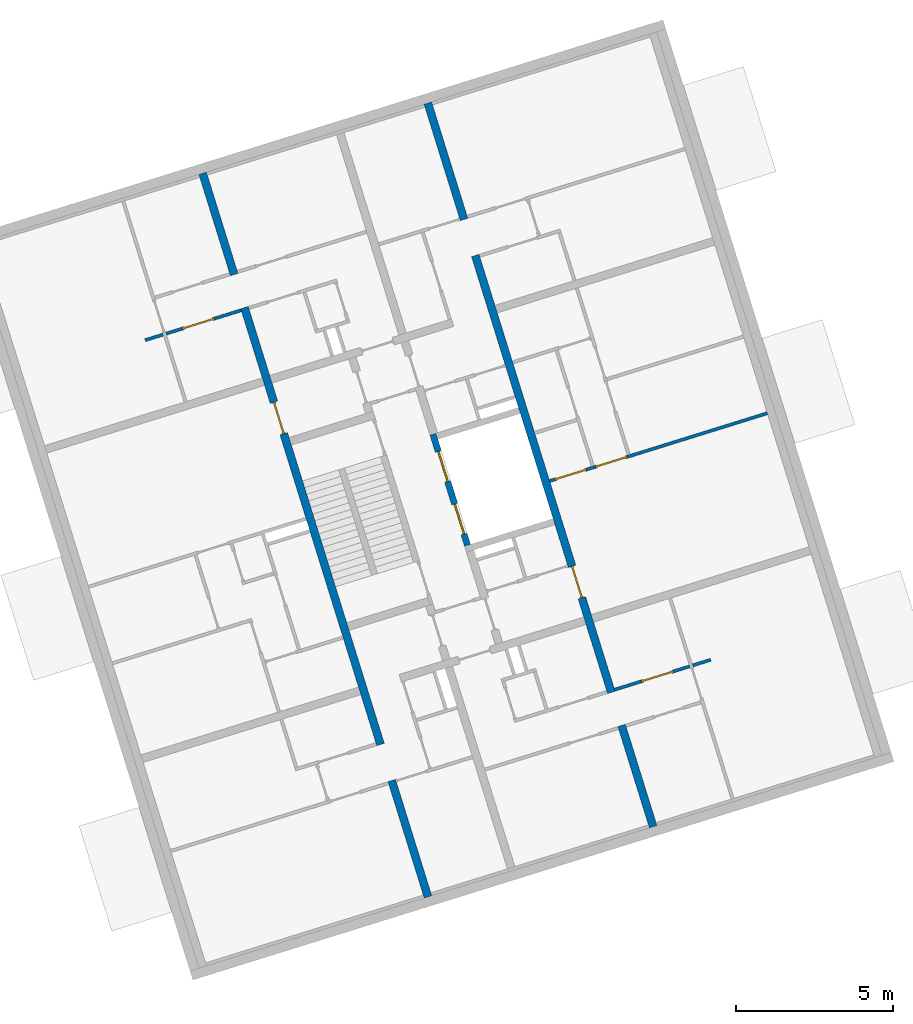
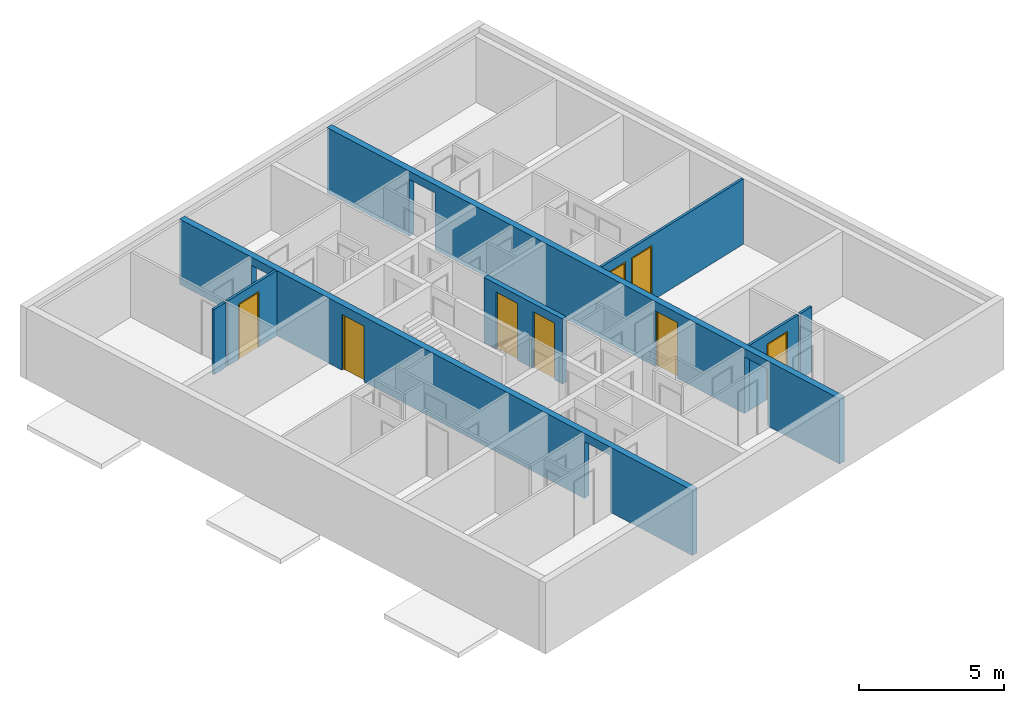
# One storey, part 8 of 9: 8 doors, 6 walls, 14 openings.
"""IFC4 building model written with IfcOpenShell, lengths in metres."""

import ifcopenshell
import ifcopenshell.guid

model = None  # the IFC model being written
_history = None  # IfcOwnerHistory: only IFC2X3 demands one
_inside = {}  # id of a spatial element -> (the spatial element, [elements in it])
_under = {}  # id of a project, library or spatial element -> (it, [spatial elements below it])
_declared = {}  # id of a project -> (the project, [libraries it declares])
_typed = {}  # id of a type object -> (the type object, [elements of that type])
_made_of = {}  # id of a material, layer set ... -> (it, [elements and type objects made of it])


def new_model(schema):
    """Start an empty IFC model of exactly this schema.

    Asked for "IFC4X3", IfcOpenShell would pick the latest addendum, in which some entities
    have other attributes; the version numbers below select the first issue.
    IFC2X3 requires an IfcOwnerHistory on every rooted entity: one is made here for all.
    """
    global model, _history
    if schema == "IFC4X3":
        model = ifcopenshell.file(schema_version=(4, 3, 0, 0))
    else:
        model = ifcopenshell.file(schema=schema)
    _inside.clear()
    _under.clear()
    _declared.clear()
    _typed.clear()
    _made_of.clear()
    _history = None
    if model.schema == "IFC2X3":
        org = make("IfcOrganization", Name="unknown")
        user = make(
            "IfcPersonAndOrganization",
            ThePerson=make("IfcPerson", FamilyName="unknown"),
            TheOrganization=org,
        )
        app = make(
            "IfcApplication",
            ApplicationDeveloper=org,
            Version="unknown",
            ApplicationFullName="unknown",
            ApplicationIdentifier="unknown",
        )
        _history = make(
            "IfcOwnerHistory",
            OwningUser=user,
            OwningApplication=app,
            ChangeAction="ADDED",
            CreationDate=0,
        )
    return model


def make(cls, **values):
    """One entity of the class cls with the attributes given. An attribute that is None is left unset."""
    return model.create_entity(
        cls, **{name: value for name, value in values.items() if value is not None}
    )


def entity(cls, *values):
    """Any entity or typed value of the class cls, its attributes in the order of the schema. None: left unset."""
    e = model.create_entity(cls)
    for i, value in enumerate(values):
        if value is not None:
            e[i] = value
    return e


def rooted(cls, **values):
    """An entity with a GlobalId (a new one), such as an element, a storey or a relation."""
    return make(cls, GlobalId=ifcopenshell.guid.new(), OwnerHistory=_history, **values)


def si_unit(unit_type, name, prefix=None):
    """IfcSIUnit, for example si_unit("LENGTHUNIT", "METRE", prefix="MILLI")."""
    return make("IfcSIUnit", UnitType=unit_type, Prefix=prefix, Name=name)


def converted_unit(unit_type, name, factor, base, dimensions=None, offset=None):
    """IfcConversionBasedUnit, such as the inch: factor (a typed value) times the base unit."""
    return make(
        "IfcConversionBasedUnit"
        if offset is None
        else "IfcConversionBasedUnitWithOffset",
        ConversionOffset=offset,
        Dimensions=None
        if dimensions is None
        else entity("IfcDimensionalExponents", *dimensions),
        UnitType=unit_type,
        Name=name,
        ConversionFactor=make(
            "IfcMeasureWithUnit", ValueComponent=factor, UnitComponent=base
        ),
    )


def assignment(units):
    """IfcUnitAssignment: the units of a project."""
    return None if units is None else make("IfcUnitAssignment", Units=units)


def point(xyz):
    """IfcCartesianPoint."""
    return None if xyz is None else make("IfcCartesianPoint", Coordinates=xyz)


def direction(xyz):
    """IfcDirection."""
    return None if xyz is None else make("IfcDirection", DirectionRatios=xyz)


def frame(location, z_axis=None, x_axis=None):
    """IfcAxis2Placement3D, a coordinate frame: its origin and axes. An axis left out is left unset."""
    return make(
        "IfcAxis2Placement3D",
        Location=point(location),
        Axis=direction(z_axis),
        RefDirection=direction(x_axis),
    )


def origin():
    """The frame at (0, 0, 0) with its axes left unset."""
    return frame((0.0, 0.0, 0.0))


def place(relative_to, where):
    """IfcLocalPlacement: puts the frame where relative to a parent placement (None: the world)."""
    return make(
        "IfcLocalPlacement", PlacementRelTo=relative_to, RelativePlacement=where
    )


def context(
    kind, dimensions, precision=None, world=None, true_north=None, identifier=None
):
    """IfcGeometricRepresentationContext, for example the 3D "Model" context."""
    return make(
        "IfcGeometricRepresentationContext",
        ContextIdentifier=identifier,
        ContextType=kind,
        CoordinateSpaceDimension=dimensions,
        Precision=precision,
        WorldCoordinateSystem=world,
        TrueNorth=true_north,
    )


def subcontext(parent, identifier, kind, view, scale=None):
    """IfcGeometricRepresentationSubContext, for example "Body" below "Model"."""
    return make(
        "IfcGeometricRepresentationSubContext",
        ContextIdentifier=identifier,
        ContextType=kind,
        ParentContext=parent,
        TargetScale=scale,
        TargetView=view,
    )


def project(units=None, contexts=None):
    """IfcProject with its units and contexts."""
    return rooted(
        "IfcProject",
        Name="project",
        RepresentationContexts=contexts,
        UnitsInContext=assignment(units),
    )


def spatial(cls, under=None, at=None, **own):
    """A site, building, storey or space (cls), placed at a placement, below another one or the project."""
    s = rooted(cls, ObjectPlacement=at, **own)
    if under is not None:
        _under.setdefault(under.id(), (under, []))[1].append(s)
    return s


def point_list(points):
    """IfcCartesianPointList2D or 3D."""
    cls = (
        "IfcCartesianPointList2D" if len(points[0]) == 2 else "IfcCartesianPointList3D"
    )
    return make(cls, CoordList=points)


def indexed_curve(points, segments=None, self_intersect=None):
    """IfcIndexedPolyCurve: lines and arcs through numbered points (the first is 1)."""
    return make(
        "IfcIndexedPolyCurve",
        Points=point_list(points),
        Segments=segments,
        SelfIntersect=self_intersect,
    )


def outline(outer, holes=None, kind="AREA"):
    """IfcArbitraryClosedProfileDef: a profile drawn as a closed curve; with holes, ...WithVoids."""
    if holes is None:
        return make("IfcArbitraryClosedProfileDef", ProfileType=kind, OuterCurve=outer)
    return make(
        "IfcArbitraryProfileDefWithVoids",
        ProfileType=kind,
        OuterCurve=outer,
        InnerCurves=holes,
    )


def extrude(swept, where, along, depth):
    """IfcExtrudedAreaSolid: the profile swept, set in the frame where, extruded along a direction by depth."""
    return make(
        "IfcExtrudedAreaSolid",
        SweptArea=swept,
        Position=where,
        ExtrudedDirection=direction(along),
        Depth=depth,
    )


def polygons(points, faces, closed=None, point_numbers=None):
    """IfcPolygonalFaceSet: a face is its outer loop, then its inner loops; points numbered from 1."""
    made = []
    for loops in faces:
        if len(loops) == 1:
            made.append(make("IfcIndexedPolygonalFace", CoordIndex=loops[0]))
        else:
            made.append(
                make(
                    "IfcIndexedPolygonalFaceWithVoids",
                    CoordIndex=loops[0],
                    InnerCoordIndices=loops[1:],
                )
            )
    return make(
        "IfcPolygonalFaceSet",
        Coordinates=point_list(points),
        Closed=closed,
        Faces=made,
        PnIndex=point_numbers,
    )


def shape(context_of_items, identifier, shape_type, items):
    """IfcShapeRepresentation: the items that make up one representation, for example the "Body"."""
    return make(
        "IfcShapeRepresentation",
        ContextOfItems=context_of_items,
        RepresentationIdentifier=identifier,
        RepresentationType=shape_type,
        Items=items,
    )


def source(mapping_origin, context_of_items, identifier, shape_type, items):
    """IfcRepresentationMap: a shape defined once, which mapped items show again and again."""
    return make(
        "IfcRepresentationMap",
        MappingOrigin=mapping_origin,
        MappedRepresentation=shape(context_of_items, identifier, shape_type, items),
    )


def transform(
    local_origin,
    x_axis=None,
    y_axis=None,
    z_axis=None,
    scale=None,
    scale2=None,
    scale3=None,
    uniform=True,
):
    """IfcCartesianTransformationOperator3D, or its non-uniform kind. x_axis, y_axis, z_axis: its Axis1, 2, 3."""
    if uniform:
        return make(
            "IfcCartesianTransformationOperator3D",
            Axis1=direction(x_axis),
            Axis2=direction(y_axis),
            LocalOrigin=point(local_origin),
            Scale=scale,
            Axis3=direction(z_axis),
        )
    return make(
        "IfcCartesianTransformationOperator3DnonUniform",
        Axis1=direction(x_axis),
        Axis2=direction(y_axis),
        LocalOrigin=point(local_origin),
        Scale=scale,
        Axis3=direction(z_axis),
        Scale2=scale2,
        Scale3=scale3,
    )


def mapped(mapping_source, mapping_target):
    """IfcMappedItem: shows the shape of a source again, moved by a transform."""
    return make(
        "IfcMappedItem", MappingSource=mapping_source, MappingTarget=mapping_target
    )


def material(Name=None, Category=None):
    """IfcMaterial."""
    return make("IfcMaterial", Name=Name, Category=Category)


def constituent(of_material, Name=None, Category=None, fraction=None):
    """IfcMaterialConstituent: one of the materials an element consists of."""
    return make(
        "IfcMaterialConstituent",
        Name=Name,
        Material=of_material,
        Fraction=fraction,
        Category=Category,
    )


def constituent_set(constituents=None, Name=None):
    """IfcMaterialConstituentSet."""
    return make(
        "IfcMaterialConstituentSet", Name=Name, MaterialConstituents=constituents
    )


def made_of(thing, what):
    """Note that an element or type object is made of a material, layer set ...; save() writes the relation."""
    if what is not None:
        _made_of.setdefault(what.id(), (what, []))[1].append(thing)
    return thing


def type_object(cls, material=None, **own):
    """A type object (cls), such as IfcWallType, which elements share."""
    return made_of(rooted(cls, **own), material)


def type_shapes(of_type, sources):
    """Give a type object the sources (RepresentationMaps) that its elements show as mapped items."""
    of_type.RepresentationMaps = sources


def element(
    cls,
    number,
    at=None,
    inside=None,
    cuts=None,
    type_object=None,
    material=None,
    context=None,
    identifier="Body",
    shape_type=None,
    held_by="IfcProductDefinitionShape",
    body=None,
    shapes=None,
    **own,
):
    """One element of the class cls, such as IfcWall. Its Tag is "e" and its number.

    at: its placement. inside: the storey or other place that contains it. cuts: it is an
    opening in that element (IfcRelVoidsElement). A single representation is given by context,
    identifier, shape_type and body (its items); several are given by shapes. held_by: the class
    of the entity that holds the representations. save() writes the other relations.
    """
    e = rooted(cls, Tag="e%d" % number, ObjectPlacement=at, **own)
    if body is not None:
        shapes = [shape(context, identifier, shape_type, body)]
    if shapes is not None:
        e.Representation = make(held_by, Representations=shapes)
    if inside is not None:
        _inside.setdefault(inside.id(), (inside, []))[1].append(e)
    if cuts is not None:
        rooted(
            "IfcRelVoidsElement", RelatingBuildingElement=cuts, RelatedOpeningElement=e
        )
    if type_object is not None:
        _typed.setdefault(type_object.id(), (type_object, []))[1].append(e)
    return made_of(e, material)


def fill(opening, filler):
    """IfcRelFillsElement: the door or window that sits in an opening."""
    return rooted(
        "IfcRelFillsElement",
        RelatingOpeningElement=opening,
        RelatedBuildingElement=filler,
    )


def aggregate(whole, parts):
    """IfcRelAggregates: a whole, such as a stair, and the parts it consists of."""
    return rooted("IfcRelAggregates", RelatingObject=whole, RelatedObjects=parts)


def save(model, path):
    """Write the relations noted so far, then the file.

    IfcRelAggregates (storeys below a building ...), IfcRelContainedInSpatialStructure (elements
    in a storey), IfcRelDefinesByType, IfcRelAssociatesMaterial and IfcRelDeclares: one each for
    every whole, place, type object, material and project.
    """
    for whole, parts in _under.values():
        aggregate(whole, parts)
    for where, things in _inside.values():
        rooted(
            "IfcRelContainedInSpatialStructure",
            RelatedElements=things,
            RelatingStructure=where,
        )
    for kind, things in _typed.values():
        rooted("IfcRelDefinesByType", RelatedObjects=things, RelatingType=kind)
    for what, things in _made_of.values():
        rooted("IfcRelAssociatesMaterial", RelatedObjects=things, RelatingMaterial=what)
    for by, libraries in _declared.values():
        rooted("IfcRelDeclares", RelatingContext=by, RelatedDefinitions=libraries)
    model.write(path)


model = new_model("IFC4")

# Units and contexts
model_context = context("Model", 3, precision=1e-05, world=origin(), true_north=direction((6.12323399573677e-17, 1.0)))
body_context = subcontext(model_context, "Body", "Model", "MODEL_VIEW")
ifc_project = project(units=[si_unit("LENGTHUNIT", "METRE"), si_unit("AREAUNIT", "SQUARE_METRE"), converted_unit("PLANEANGLEUNIT", "DEGREE", entity("IfcPlaneAngleMeasure", 0.0174532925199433), si_unit("PLANEANGLEUNIT", "RADIAN"), dimensions=[0, 0, 0, 0, 0, 0, 0]), si_unit("VOLUMEUNIT", "CUBIC_METRE")], contexts=[model_context])

# Site, building, storey
site_placement = place(None, frame((13.1347999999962, 11.9886000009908, 0.0), z_axis=(0.0, 0.0, 1.0), x_axis=(0.954770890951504, 0.297342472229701, 0.0)))
site = spatial("IfcSite", under=ifc_project, at=site_placement, Name="Schiehaven", CompositionType="ELEMENT")
building_placement = place(site_placement, origin())
building = spatial("IfcBuilding", under=site, at=building_placement, Name="VORM huis", CompositionType="ELEMENT")
storey_placement = place(building_placement, frame((0.0, 0.0, 21.9)))
storey = spatial("IfcBuildingStorey", under=building, at=storey_placement, Name="07 zevende verdieping", CompositionType="ELEMENT", Elevation=21.9)

# Wall, openings, door
ifc_material_1 = material(Name="beton_gewapend_ihw", Category="Miscellaneous")
wall_type_1 = type_object("IfcWallType", Name="Basic Wall:28_WA_skelet_wand 250mm_gen", PredefinedType="STANDARD")
wall_1_placement = place(storey_placement, frame((72.5, 5.0, 0.0), z_axis=(0.0, 0.0, 1.0), x_axis=(0.0, 1.0, 0.0)))
wall_1 = element("IfcWall", 1, at=wall_1_placement, inside=storey, type_object=wall_type_1, material=ifc_material_1, Name="Constructieve wand", ObjectType="Wand", PredefinedType="NOTDEFINED", context=body_context, shape_type="Tessellation", body=[
    polygons([(8.67499999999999, -0.125000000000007, 2.34999999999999), (8.67499999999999, -0.125000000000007, 0.0), (19.0250000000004, -0.125000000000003, 0.0), (19.0250000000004, -0.125000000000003, 2.4), (20.2250000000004, -0.125000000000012, 2.4), (20.2250000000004, -0.125000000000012, 0.0), (24.1, -0.125000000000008, 0.0), (24.1, -0.125000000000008, 2.75), (0.0, -0.125000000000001, 2.75), (1.08286712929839e-15, -0.125000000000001, 0.0), (3.37500000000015, -0.125000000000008, 0.0), (3.37500000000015, -0.125000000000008, 2.4), (4.47500000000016, -0.124999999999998, 2.4), (4.47500000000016, -0.124999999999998, 0.0), (7.62499999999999, -0.125000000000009, 0.0), (7.62499999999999, -0.125000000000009, 2.34999999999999), (19.0250000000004, 0.124999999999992, 0.0), (8.675, 0.124999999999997, 0.0), (8.675, 0.124999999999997, 2.34999999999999), (7.62499999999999, 0.125000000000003, 2.34999999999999), (7.62499999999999, 0.125000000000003, 0.0), (7.025, 0.124999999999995, 0.0), (6.775, 0.12499999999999, 0.0), (4.47500000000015, 0.124999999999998, 0.0), (4.47500000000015, 0.124999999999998, 2.4), (3.37500000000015, 0.124999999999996, 2.4), (3.37500000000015, 0.124999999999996, 0.0), (2.16573425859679e-15, 0.124999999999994, 0.0), (2.16573425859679e-15, 0.124999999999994, 2.75), (6.775, 0.12499999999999, 2.75), (7.025, 0.124999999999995, 2.75), (24.1, 0.124999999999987, 2.75), (24.1, 0.124999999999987, 0.0), (20.2250000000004, 0.124999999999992, 0.0), (20.2250000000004, 0.124999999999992, 2.4), (19.0250000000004, 0.124999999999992, 2.4)], [[[1, 2, 3, 4, 5, 6, 7, 8, 9, 10, 11, 12, 13, 14, 15, 16]], [[17, 18, 19, 20, 21, 22, 23, 24, 25, 26, 27, 28, 29, 30, 31, 32, 33, 34, 35, 36]], [[10, 28, 27, 11]], [[8, 7, 33, 32]], [[9, 8, 32, 31, 30, 29]], [[10, 9, 29, 28]], [[12, 26, 25, 13]], [[26, 12, 11, 27]], [[13, 25, 24, 14]], [[4, 36, 35, 5]], [[36, 4, 3, 17]], [[5, 35, 34, 6]], [[21, 20, 16, 15]], [[19, 18, 2, 1]], [[20, 19, 1, 16]], [[15, 14, 24, 23, 22, 21]], [[3, 2, 18, 17]], [[33, 7, 6, 34]]], closed=True),
])
opening_1_placement = place(wall_1_placement, origin())
element("IfcOpeningElement", 2, at=opening_1_placement, cuts=wall_1, Name="Constructieve wand", PredefinedType="OPENING", context=body_context, shape_type="SweptSolid", body=[
    extrude(outline(indexed_curve([(-1.2, -0.550000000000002), (1.2, -0.550000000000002), (1.2, 0.550000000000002), (-1.2, 0.550000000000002), (-1.2, -0.550000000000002)], self_intersect=False)), frame((3.92500000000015, -0.124999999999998, 1.2), z_axis=(0.0, 1.0, 0.0), x_axis=(0.0, 0.0, -1.0)), (0.0, 0.0, 1.0), 0.249999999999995),
])
opening_2_placement = place(wall_1_placement, origin())
element("IfcOpeningElement", 3, at=opening_2_placement, cuts=wall_1, Name="Constructieve wand", PredefinedType="OPENING", context=body_context, shape_type="SweptSolid", body=[
    extrude(outline(indexed_curve([(-1.2, -0.599999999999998), (1.2, -0.599999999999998), (1.2, 0.599999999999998), (-1.2, 0.599999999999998), (-1.2, -0.599999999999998)], self_intersect=False)), frame((19.6250000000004, -0.125000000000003, 1.2), z_axis=(0.0, 1.0, 0.0), x_axis=(0.0, 0.0, -1.0)), (0.0, 0.0, 1.0), 0.249999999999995),
])
opening_3_placement = place(wall_1_placement, frame((7.62499999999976, -0.124999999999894, 0.0)))
opening_3 = element("IfcOpeningElement", 4, at=opening_3_placement, cuts=wall_1, Name="Binnendeur", PredefinedType="OPENING", context=body_context, shape_type="SweptSolid", body=[
    extrude(outline(indexed_curve([(2.34999999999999, 1.08286712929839e-15), (2.34999999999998, 1.05), (0.0, 1.05), (2.16573425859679e-15, 1.08286712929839e-15), (2.34999999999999, 1.08286712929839e-15)], self_intersect=False)), frame((0.0, 0.0, 0.0), z_axis=(0.0, 1.0, 0.0), x_axis=(0.0, 0.0, 1.0)), (0.0, 0.0, 1.0), 0.25),
])
ifc_material_2 = material(Name="PD_a_binnenwandopeningen", Category="Miscellaneous")
ifc_constituent_1 = constituent(ifc_material_2, Name="PD_a_binnenwandopeningen", Category="Miscellaneous")
ifc_material_3 = material(Name="metaal_aluminium_ntb", Category="Miscellaneous")
ifc_constituent_2 = constituent(ifc_material_3, Name="metaal_aluminium_ntb", Category="Miscellaneous")
ifc_constituent_set_1 = constituent_set(constituents=[ifc_constituent_1, ifc_constituent_2])
ifc_constituent_3 = constituent(ifc_material_2, Name="PD_a_binnenwandopeningen", Category="Miscellaneous")
ifc_constituent_4 = constituent(ifc_material_3, Name="Panel", Category="Miscellaneous")
ifc_constituent_set_2 = constituent_set(constituents=[ifc_constituent_3, ifc_constituent_4])
door_type_1 = type_object("IfcDoorType", Name="32_DO_binnendeur enkel:binnendeur", OperationType="REVOLVING", PredefinedType="DOOR", material=ifc_constituent_set_2)
shared_shape_1 = source(origin(), body_context, "Body", "SweptSolid", [
    extrude(outline(indexed_curve([(0.475, -1.16249999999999), (0.525000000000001, -1.16249999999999), (0.525000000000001, 1.18749999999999), (-0.525000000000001, 1.18749999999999), (-0.525000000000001, -1.16249999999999), (-0.475, -1.16249999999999), (-0.475, 1.13749999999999), (0.475, 1.13749999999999), (0.475, -1.16249999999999)], self_intersect=False)), frame((0.525000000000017, 0.174999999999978, 1.16249999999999), z_axis=(0.0, -1.0, 0.0), x_axis=(1.0, 0.0, 0.0)), (0.0, 0.0, 1.0), 0.1),
    extrude(outline(indexed_curve([(-0.475, -0.025), (0.475, -0.025), (0.475, 0.025), (-0.475, 0.025), (-0.475, -0.025)], self_intersect=False)), frame((0.525000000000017, 0.12499999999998, 0.0)), (0.0, 0.0, 1.0), 2.29999999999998),
])
type_shapes(door_type_1, [shared_shape_1])
door_1_placement = place(opening_3_placement, origin())
door_1 = element("IfcDoor", 5, at=door_1_placement, inside=storey, type_object=door_type_1, material=ifc_constituent_set_1, Name="Binnendeur", ObjectType="Deur", OperationType="REVOLVING", OverallHeight=2.34999999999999, OverallWidth=1.05, PredefinedType="DOOR", context=body_context, shape_type="MappedRepresentation", body=[
    mapped(shared_shape_1, transform((0.0, 0.0, 0.0), scale=1.0)),
])
fill(opening_3, door_1)

wall_2_placement = place(storey_placement, frame((65.0, 29.0999999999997, 0.0), z_axis=(0.0, 0.0, 1.0), x_axis=(0.0, -1.0, 0.0)))
wall_2 = element("IfcWall", 6, at=wall_2_placement, inside=storey, type_object=wall_type_1, material=ifc_material_1, Name="Constructieve wand", ObjectType="Wand", PredefinedType="NOTDEFINED", context=body_context, shape_type="Tessellation", body=[
    polygons([(8.67499999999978, -0.125000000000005, 2.34999999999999), (8.67499999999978, -0.125000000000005, 0.0), (19.0249999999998, -0.125000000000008, 0.0), (19.0249999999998, -0.125000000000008, 2.4), (20.2249999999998, -0.125000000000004, 2.4), (20.2249999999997, -0.125000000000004, 0.0), (24.1, -0.125000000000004, 0.0), (24.1, -0.125000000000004, 2.75), (4.33146851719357e-15, -0.124999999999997, 2.75), (4.33146851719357e-15, -0.124999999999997, 0.0), (3.37499999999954, -0.125000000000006, 0.0), (3.37499999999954, -0.125000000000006, 2.4), (4.47499999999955, -0.125000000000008, 2.4), (4.47499999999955, -0.125000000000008, 0.0), (7.62499999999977, -0.124999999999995, 0.0), (7.62499999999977, -0.124999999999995, 2.34999999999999), (19.0249999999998, 0.124999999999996, 0.0), (8.67499999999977, 0.124999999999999, 0.0), (8.67499999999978, 0.124999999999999, 2.34999999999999), (7.62499999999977, 0.125, 2.34999999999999), (7.62499999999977, 0.125, 0.0), (7.02500000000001, 0.124999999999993, 0.0), (6.77500000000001, 0.124999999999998, 0.0), (4.47499999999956, 0.124999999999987, 0.0), (4.47499999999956, 0.124999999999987, 2.4), (3.37499999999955, 0.124999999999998, 2.4), (3.37499999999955, 0.124999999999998, 0.0), (0.0, 0.124999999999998, 0.0), (0.0, 0.124999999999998, 2.75), (6.77500000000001, 0.124999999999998, 2.75), (7.02500000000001, 0.124999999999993, 2.75), (24.1, 0.125, 2.75), (24.1, 0.125, 0.0), (20.2249999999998, 0.125, 0.0), (20.2249999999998, 0.125, 2.4), (19.0249999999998, 0.124999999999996, 2.4)], [[[1, 2, 3, 4, 5, 6, 7, 8, 9, 10, 11, 12, 13, 14, 15, 16]], [[17, 18, 19, 20, 21, 22, 23, 24, 25, 26, 27, 28, 29, 30, 31, 32, 33, 34, 35, 36]], [[10, 28, 27, 11]], [[8, 7, 33, 32]], [[9, 8, 32, 31, 30, 29]], [[10, 9, 29, 28]], [[12, 26, 25, 13]], [[26, 12, 11, 27]], [[13, 25, 24, 14]], [[4, 36, 35, 5]], [[36, 4, 3, 17]], [[5, 35, 34, 6]], [[21, 20, 16, 15]], [[19, 18, 2, 1]], [[20, 19, 1, 16]], [[15, 14, 24, 23, 22, 21]], [[3, 2, 18, 17]], [[33, 7, 6, 34]]], closed=True),
])
opening_4_placement = place(wall_2_placement, origin())
element("IfcOpeningElement", 7, at=opening_4_placement, cuts=wall_2, Name="Constructieve wand", PredefinedType="OPENING", context=body_context, shape_type="SweptSolid", body=[
    extrude(outline(indexed_curve([(-1.2, -0.550000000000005), (1.2, -0.550000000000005), (1.2, 0.550000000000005), (-1.2, 0.550000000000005), (-1.2, -0.550000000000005)], self_intersect=False)), frame((3.92499999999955, -0.125000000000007, 1.2), z_axis=(0.0, 1.0, 0.0), x_axis=(0.0, 0.0, -1.0)), (0.0, 0.0, 1.0), 0.249999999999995),
])
opening_5_placement = place(wall_2_placement, origin())
element("IfcOpeningElement", 8, at=opening_5_placement, cuts=wall_2, Name="Constructieve wand", PredefinedType="OPENING", context=body_context, shape_type="SweptSolid", body=[
    extrude(outline(indexed_curve([(-1.2, -0.599999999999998), (1.2, -0.599999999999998), (1.2, 0.599999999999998), (-1.2, 0.599999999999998), (-1.2, -0.599999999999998)], self_intersect=False)), frame((19.6249999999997, -0.124999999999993, 1.2), z_axis=(0.0, 1.0, 0.0), x_axis=(0.0, 0.0, -1.0)), (0.0, 0.0, 1.0), 0.249999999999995),
])
opening_6_placement = place(wall_2_placement, frame((7.62499999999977, -0.125000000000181, 0.0)))
opening_6 = element("IfcOpeningElement", 9, at=opening_6_placement, cuts=wall_2, Name="Binnendeur", PredefinedType="OPENING", context=body_context, shape_type="SweptSolid", body=[
    extrude(outline(indexed_curve([(2.34999999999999, 2.56961408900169e-29), (2.34999999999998, 1.05), (0.0, 1.05), (2.16573425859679e-15, 2.56961408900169e-29), (2.34999999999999, 2.56961408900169e-29)], self_intersect=False)), frame((0.0, 0.0, 0.0), z_axis=(0.0, 1.0, 0.0), x_axis=(0.0, 0.0, 1.0)), (0.0, 0.0, 1.0), 0.25),
])
ifc_constituent_5 = constituent(ifc_material_2, Name="PD_a_binnenwandopeningen", Category="Miscellaneous")
ifc_constituent_6 = constituent(ifc_material_3, Name="metaal_aluminium_ntb", Category="Miscellaneous")
ifc_constituent_set_3 = constituent_set(constituents=[ifc_constituent_5, ifc_constituent_6])
door_2_placement = place(opening_6_placement, origin())
door_2 = element("IfcDoor", 10, at=door_2_placement, inside=storey, type_object=door_type_1, material=ifc_constituent_set_3, Name="Binnendeur", ObjectType="Deur", OperationType="REVOLVING", OverallHeight=2.34999999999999, OverallWidth=1.05, PredefinedType="DOOR", context=body_context, shape_type="MappedRepresentation", body=[
    mapped(shared_shape_1, transform((0.0, 0.0, 0.0), scale=1.0)),
])
fill(opening_6, door_2)

# Wall, openings, doors
ifc_material_4 = material(Name="beton_gewapend_prefab-element", Category="Miscellaneous")
wall_type_2 = type_object("IfcWallType", Name="Basic Wall:28_WA_skelet_wand 200mm_gen", PredefinedType="STANDARD")
wall_3_placement = place(storey_placement, frame((69.5249999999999, 15.2999999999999, 0.0), z_axis=(0.0, 0.0, 1.0), x_axis=(0.0, 1.0, 0.0)))
wall_3 = element("IfcWall", 11, at=wall_3_placement, inside=storey, type_object=wall_type_2, material=ifc_material_4, Name="Constructieve wand", ObjectType="Wand", PredefinedType="NOTDEFINED", context=body_context, shape_type="Tessellation", body=[
    polygons([(3.70000000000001, -0.0999999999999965, 2.75), (3.50000000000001, -0.0999999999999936, 2.75), (2.16573425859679e-15, -0.0999999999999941, 2.75), (2.16573425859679e-15, -0.0999999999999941, 0.0), (0.3749999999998, -0.0999999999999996, 0.0), (0.3749999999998, -0.0999999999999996, 2.39999999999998), (1.3749999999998, -0.099999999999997, 2.39999999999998), (1.3749999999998, -0.099999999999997, 0.0), (2.1249999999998, -0.100000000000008, 0.0), (2.1249999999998, -0.0999999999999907, 2.39999999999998), (3.1249999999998, -0.0999999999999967, 2.39999999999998), (3.1249999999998, -0.0999999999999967, 0.0), (3.50000000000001, -0.0999999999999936, 0.0), (3.70000000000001, -0.0999999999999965, 0.0), (4.33146851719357e-15, 0.100000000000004, 2.75), (3.70000000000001, 0.0999999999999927, 2.75), (3.70000000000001, 0.0999999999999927, 0.0), (3.1249999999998, 0.100000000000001, 0.0), (3.1249999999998, 0.100000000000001, 2.39999999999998), (2.1249999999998, 0.0999999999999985, 2.39999999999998), (2.1249999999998, 0.0999999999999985, 0.0), (1.3749999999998, 0.10000000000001, 0.0), (1.3749999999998, 0.10000000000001, 2.39999999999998), (0.374999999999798, 0.0999999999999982, 2.39999999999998), (0.374999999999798, 0.0999999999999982, 0.0), (4.33146851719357e-15, 0.100000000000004, 0.0)], [[[1, 2, 3, 4, 5, 6, 7, 8, 9, 10, 11, 12, 13, 14]], [[15, 16, 17, 18, 19, 20, 21, 22, 23, 24, 25, 26]], [[5, 4, 26, 25]], [[3, 2, 1, 16, 15]], [[7, 23, 22, 8]], [[24, 6, 5, 25]], [[23, 7, 6, 24]], [[11, 19, 18, 12]], [[20, 10, 9, 21]], [[19, 11, 10, 20]], [[1, 14, 17, 16]], [[4, 3, 15, 26]], [[8, 22, 21, 9]], [[17, 14, 13, 12, 18]]], closed=True),
])
opening_7_placement = place(wall_3_placement, frame((-15.2999999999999, 69.5249999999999, 0.0), z_axis=(0.0, 0.0, 1.0), x_axis=(0.0, -1.0, 0.0)))
opening_7 = element("IfcOpeningElement", 12, at=opening_7_placement, cuts=wall_3, Name="Brandweerlift", PredefinedType="OPENING", context=body_context, shape_type="SweptSolid", body=[
    extrude(outline(indexed_curve([(-1.19999999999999, -0.500000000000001), (1.19999999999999, -0.500000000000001), (1.19999999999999, 0.499999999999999), (-1.19999999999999, 0.499999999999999), (-1.19999999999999, -0.500000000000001)], self_intersect=False)), frame((70.0126380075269, 16.1749999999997, 1.19999999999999), z_axis=(-1.0, 0.0, 0.0), x_axis=(0.0, 0.0, -1.0)), (0.0, 0.0, 1.0), 0.756310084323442),
])
opening_8_placement = place(wall_3_placement, frame((-15.2999999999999, 69.5249999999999, 0.0), z_axis=(0.0, 0.0, 1.0), x_axis=(0.0, -1.0, 0.0)))
opening_8 = element("IfcOpeningElement", 13, at=opening_8_placement, cuts=wall_3, Name="Brandweerlift", PredefinedType="OPENING", context=body_context, shape_type="SweptSolid", body=[
    extrude(outline(indexed_curve([(-1.19999999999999, -0.500000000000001), (1.19999999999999, -0.500000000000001), (1.19999999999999, 0.499999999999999), (-1.19999999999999, 0.499999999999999), (-1.19999999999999, -0.500000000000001)], self_intersect=False)), frame((70.0126380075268, 17.9249999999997, 1.19999999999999), z_axis=(-1.0, 0.0, 0.0), x_axis=(0.0, 0.0, -1.0)), (0.0, 0.0, 1.0), 0.756310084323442),
])
door_type_2 = type_object("IfcDoorType", Name="66_WI_liftdeur:brandweerlift - tweezijdig toegankelijk", OperationType="NOTDEFINED", PredefinedType="DOOR", material=ifc_material_3)
shared_shape_2 = source(origin(), body_context, "Body", "SweptSolid", [
    extrude(outline(indexed_curve([(-0.25, -0.0250000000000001), (0.25, -0.0249999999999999), (0.25, 0.0250000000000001), (-0.25, 0.0249999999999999), (-0.25, -0.0250000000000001)], self_intersect=False)), frame((0.750000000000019, -0.28763800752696, 0.0)), (0.0, 0.0, 1.0), 2.39999999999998),
    extrude(outline(indexed_curve([(-0.25, -0.0250000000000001), (0.25, -0.0249999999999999), (0.25, 0.0250000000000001), (-0.25, 0.0249999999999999), (-0.25, -0.0250000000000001)], self_intersect=False)), frame((0.250000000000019, -0.287638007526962, 0.0)), (0.0, 0.0, 1.0), 2.39999999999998),
])
type_shapes(door_type_2, [shared_shape_2])
door_3_placement = place(opening_7_placement, frame((69.2373619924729, 15.6749999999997, 0.0), z_axis=(0.0, 0.0, 1.0), x_axis=(0.0, 1.0, 0.0)))
door_3 = element("IfcDoor", 14, at=door_3_placement, inside=storey, type_object=door_type_2, material=ifc_material_3, Name="Brandweerlift", ObjectType="Transport", OperationType="NOTDEFINED", OverallHeight=2.39999999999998, OverallWidth=1.0, PredefinedType="DOOR", context=body_context, shape_type="MappedRepresentation", body=[
    mapped(shared_shape_2, transform((0.0, 0.0, 0.0), scale=1.0)),
])
fill(opening_7, door_3)
door_4_placement = place(opening_8_placement, frame((69.2373619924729, 17.4249999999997, 0.0), z_axis=(0.0, 0.0, 1.0), x_axis=(0.0, 1.0, 0.0)))
door_4 = element("IfcDoor", 15, at=door_4_placement, inside=storey, type_object=door_type_2, material=ifc_material_3, Name="Brandweerlift", ObjectType="Transport", OperationType="NOTDEFINED", OverallHeight=2.39999999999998, OverallWidth=1.0, PredefinedType="DOOR", context=body_context, shape_type="MappedRepresentation", body=[
    mapped(shared_shape_2, transform((0.0, 0.0, 0.0), scale=1.0)),
])
fill(opening_8, door_4)

# Wall, openings, door
ifc_material_5 = material(Name="ntb_ntb_ntb", Category="Miscellaneous")
wall_type_3 = type_object("IfcWallType", Name="Basic Wall:22_WA_afbouw_binnenwand 100mm_gen", PredefinedType="STANDARD")
wall_4_placement = place(storey_placement, frame((72.625, 9.52499999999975, 0.0)))
wall_4 = element("IfcWall", 16, at=wall_4_placement, inside=storey, type_object=wall_type_3, material=ifc_material_5, Name="Binnenwand", ObjectType="Wand", PredefinedType="NOTDEFINED", context=body_context, shape_type="Tessellation", body=[
    polygons([(-5.76685161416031e-15, -0.0500000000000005, 2.75), (-5.76685161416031e-15, -0.0500000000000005, 0.0), (0.899999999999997, -0.0500000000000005, 0.0), (0.899999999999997, -0.0500000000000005, 2.34999999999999), (1.95, -0.0500000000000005, 2.34999999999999), (1.95, -0.0500000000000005, 0.0), (2.50000000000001, -0.0500000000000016, 0.0), (2.50000000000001, -0.0500000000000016, 2.75), (-4.09055660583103e-15, 0.0499999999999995, 0.0), (0.899999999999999, 0.0500000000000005, 0.0), (-4.09055660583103e-15, 0.0499999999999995, 2.75), (1.95, 0.0500000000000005, 2.34999999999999), (1.95, 0.0500000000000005, 0.0), (0.899999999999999, 0.0500000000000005, 2.34999999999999), (2.50000000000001, 0.0499999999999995, 0.0), (2.50000000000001, 0.0499999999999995, 2.75)], [[[1, 2, 3, 4, 5, 6, 7, 8]], [[2, 9, 10, 3]], [[2, 1, 11, 9]], [[6, 5, 12, 13]], [[4, 3, 10, 14]], [[5, 4, 14, 12]], [[8, 7, 15, 16]], [[11, 1, 8, 16]], [[6, 13, 15, 7]], [[9, 11, 16, 15, 13, 12, 14, 10]]], closed=True),
    polygons([(3.20000000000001, 0.0499999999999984, 2.75), (3.20000000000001, 0.0499999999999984, 0.0), (2.60000000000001, 0.0499999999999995, 0.0), (2.60000000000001, 0.0499999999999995, 2.75), (3.20000000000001, -0.0500000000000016, 2.75), (3.20000000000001, -0.0500000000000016, 0.0), (2.60000000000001, -0.0500000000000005, 2.75), (2.60000000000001, -0.0500000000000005, 0.0)], [[[1, 2, 3, 4]], [[5, 6, 2, 1]], [[5, 1, 4, 7]], [[8, 7, 4, 3]], [[2, 6, 8, 3]], [[6, 5, 7, 8]]], closed=True),
])
opening_9_placement = place(storey_placement, frame((72.625, 9.52499999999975, 0.0)))
element("IfcOpeningElement", 17, at=opening_9_placement, cuts=wall_4, Name="Binnenwand:1", PredefinedType="OPENING", context=body_context, shape_type="SweptSolid", body=[
    extrude(outline(indexed_curve([(-1.375, -0.0500000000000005), (1.375, -0.0500000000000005), (1.375, 0.0500000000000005), (-1.375, 0.0499999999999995), (-1.375, -0.0500000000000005)], self_intersect=False)), frame((2.50000000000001, 0.0, 1.375), z_axis=(1.0, 0.0, 0.0), x_axis=(0.0, 0.0, -1.0)), (0.0, 0.0, 1.0), 0.100000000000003),
])
opening_10_placement = place(wall_4_placement, frame((1.95, 0.0500000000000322, 0.0)))
opening_10 = element("IfcOpeningElement", 18, at=opening_10_placement, cuts=wall_4, Name="Binnendeur", PredefinedType="OPENING", context=body_context, shape_type="SweptSolid", body=[
    extrude(outline(indexed_curve([(2.34999999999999, 4.67982478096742e-30), (2.34999999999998, 1.05), (0.0, 1.05), (2.16573425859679e-15, 4.67982478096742e-30), (2.34999999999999, 4.67982478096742e-30)], self_intersect=False)), frame((0.0, 0.0, 0.0), z_axis=(0.0, -1.0, 0.0), x_axis=(0.0, 0.0, 1.0)), (0.0, 0.0, 1.0), 0.1),
])
ifc_constituent_7 = constituent(ifc_material_2, Name="PD_a_binnenwandopeningen", Category="Miscellaneous")
ifc_constituent_8 = constituent(ifc_material_3, Name="metaal_aluminium_ntb", Category="Miscellaneous")
ifc_constituent_set_4 = constituent_set(constituents=[ifc_constituent_7, ifc_constituent_8])
ifc_constituent_9 = constituent(ifc_material_2, Name="PD_a_binnenwandopeningen", Category="Miscellaneous")
ifc_constituent_10 = constituent(ifc_material_3, Name="Panel", Category="Miscellaneous")
ifc_constituent_set_5 = constituent_set(constituents=[ifc_constituent_9, ifc_constituent_10])
door_type_3 = type_object("IfcDoorType", Name="32_DO_binnendeur enkel:binnendeur", OperationType="REVOLVING", PredefinedType="DOOR", material=ifc_constituent_set_5)
shared_shape_3 = source(origin(), body_context, "Body", "SweptSolid", [
    extrude(outline(indexed_curve([(0.475, -1.16249999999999), (0.525, -1.16249999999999), (0.525, 1.18749999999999), (-0.525, 1.18749999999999), (-0.525, -1.16249999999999), (-0.475, -1.16249999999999), (-0.475, 1.13749999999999), (0.475, 1.13749999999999), (0.475, -1.16249999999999)], self_intersect=False)), frame((0.525000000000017, 0.100000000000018, 1.16249999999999), z_axis=(0.0, -1.0, 0.0), x_axis=(1.0, 0.0, 0.0)), (0.0, 0.0, 1.0), 0.1),
    extrude(outline(indexed_curve([(-0.475, -0.025), (0.475, -0.025), (0.475, 0.025), (-0.475, 0.025), (-0.475, -0.025)], self_intersect=False)), frame((0.525000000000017, 0.0499999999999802, 0.0)), (0.0, 0.0, 1.0), 2.29999999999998),
])
type_shapes(door_type_3, [shared_shape_3])
door_5_placement = place(opening_10_placement, frame((0.0, 0.0, 0.0), z_axis=(0.0, 0.0, 1.0), x_axis=(-1.0, 0.0, 0.0)))
door_5 = element("IfcDoor", 19, at=door_5_placement, inside=storey, type_object=door_type_3, material=ifc_constituent_set_4, Name="Binnendeur", ObjectType="Deur", OperationType="REVOLVING", OverallHeight=2.34999999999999, OverallWidth=1.05, PredefinedType="DOOR", context=body_context, shape_type="MappedRepresentation", body=[
    mapped(shared_shape_3, transform((0.0, 0.0, 0.0), scale=1.0)),
])
fill(opening_10, door_5)

wall_5_placement = place(storey_placement, frame((64.8749999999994, 24.5750000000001, 0.0), z_axis=(0.0, 0.0, 1.0), x_axis=(-1.0, 0.0, 0.0)))
wall_5 = element("IfcWall", 20, at=wall_5_placement, inside=storey, type_object=wall_type_3, material=ifc_material_5, Name="Binnenwand", ObjectType="Wand", PredefinedType="NOTDEFINED", context=body_context, shape_type="Tessellation", body=[
    polygons([(1.78530300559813e-16, -0.0499999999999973, 2.75), (1.78530300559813e-16, -0.0499999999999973, 0.0), (0.899999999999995, -0.0499999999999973, 0.0), (0.899999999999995, -0.0499999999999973, 2.34999999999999), (1.95, -0.049999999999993, 2.34999999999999), (1.95, -0.049999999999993, 0.0), (2.49999999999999, -0.049999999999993, 0.0), (2.49999999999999, -0.049999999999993, 2.75), (1.69052121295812e-15, 0.0500000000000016, 0.0), (0.899999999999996, 0.0500000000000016, 0.0), (1.69052121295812e-15, 0.0500000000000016, 2.75), (1.95, 0.050000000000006, 2.34999999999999), (1.95, 0.050000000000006, 0.0), (0.899999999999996, 0.0500000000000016, 2.34999999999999), (2.5, 0.050000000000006, 0.0), (2.5, 0.050000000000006, 2.75)], [[[1, 2, 3, 4, 5, 6, 7, 8]], [[2, 9, 10, 3]], [[2, 1, 11, 9]], [[6, 5, 12, 13]], [[4, 3, 10, 14]], [[5, 4, 14, 12]], [[8, 7, 15, 16]], [[11, 1, 8, 16]], [[6, 13, 15, 7]], [[9, 11, 16, 15, 13, 12, 14, 10]]], closed=True),
    polygons([(3.2, 0.0500000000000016, 2.75), (3.2, 0.0500000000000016, 0.0), (2.60000000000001, 0.0500000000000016, 0.0), (2.60000000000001, 0.0500000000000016, 2.75), (3.2, -0.0499999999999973, 2.75), (3.2, -0.0499999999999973, 0.0), (2.60000000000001, -0.0499999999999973, 2.75), (2.60000000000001, -0.0499999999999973, 0.0)], [[[1, 2, 3, 4]], [[5, 6, 2, 1]], [[5, 1, 4, 7]], [[8, 7, 4, 3]], [[2, 6, 8, 3]], [[6, 5, 7, 8]]], closed=True),
])
opening_11_placement = place(storey_placement, frame((64.8749999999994, 24.5750000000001, 0.0), z_axis=(0.0, 0.0, 1.0), x_axis=(-1.0, 0.0, 0.0)))
element("IfcOpeningElement", 21, at=opening_11_placement, cuts=wall_5, Name="Binnenwand:1", PredefinedType="OPENING", context=body_context, shape_type="SweptSolid", body=[
    extrude(outline(indexed_curve([(-1.375, -0.0500000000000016), (1.375, -0.0500000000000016), (1.375, 0.0499999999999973), (-1.375, 0.0499999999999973), (-1.375, -0.0500000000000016)], self_intersect=False)), frame((2.60000000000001, 0.0, 1.375), z_axis=(-1.0, 0.0, 0.0), x_axis=(0.0, 0.0, 1.0)), (0.0, 0.0, 1.0), 0.100000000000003),
])
opening_12_placement = place(wall_5_placement, frame((1.94999999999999, 0.0500000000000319, 0.0)))
opening_12 = element("IfcOpeningElement", 22, at=opening_12_placement, cuts=wall_5, Name="Binnendeur", PredefinedType="OPENING", context=body_context, shape_type="SweptSolid", body=[
    extrude(outline(indexed_curve([(2.34999999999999, 0.0), (2.34999999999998, 1.05), (0.0, 1.05), (2.16573425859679e-15, 0.0), (2.34999999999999, 0.0)], self_intersect=False)), frame((0.0, 0.0, 0.0), z_axis=(0.0, -1.0, 0.0), x_axis=(0.0, 0.0, 1.0)), (0.0, 0.0, 1.0), 0.1),
])
ifc_constituent_11 = constituent(ifc_material_2, Name="PD_a_binnenwandopeningen", Category="Miscellaneous")
ifc_constituent_12 = constituent(ifc_material_3, Name="metaal_aluminium_ntb", Category="Miscellaneous")
ifc_constituent_set_6 = constituent_set(constituents=[ifc_constituent_11, ifc_constituent_12])
door_6_placement = place(opening_12_placement, frame((0.0, 0.0, 0.0), z_axis=(0.0, 0.0, 1.0), x_axis=(-1.0, 0.0, 0.0)))
door_6 = element("IfcDoor", 23, at=door_6_placement, inside=storey, type_object=door_type_3, material=ifc_constituent_set_6, Name="Binnendeur", ObjectType="Deur", OperationType="REVOLVING", OverallHeight=2.34999999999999, OverallWidth=1.05, PredefinedType="DOOR", context=body_context, shape_type="MappedRepresentation", body=[
    mapped(shared_shape_3, transform((0.0, 0.0, 0.0), scale=1.0)),
])
fill(opening_12, door_6)

# Wall, openings, doors
wall_6_placement = place(storey_placement, frame((72.6228357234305, 16.4749999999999, 0.0)))
wall_6 = element("IfcWall", 24, at=wall_6_placement, inside=storey, type_object=wall_type_3, material=ifc_material_5, Name="Binnenwand", ObjectType="Wand", PredefinedType="NOTDEFINED", context=body_context, shape_type="Tessellation", body=[
    polygons([(-3.00038679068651e-15, -0.0499999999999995, 0.0), (0.176082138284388, -0.0499999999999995, 0.0), (0.176082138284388, -0.0499999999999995, 2.34999999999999), (1.22608213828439, -0.0499999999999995, 2.34999999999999), (1.22608213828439, -0.0499999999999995, 0.0), (1.52716427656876, -0.0499999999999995, 0.0), (1.52716427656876, -0.0499999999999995, 2.34999999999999), (2.57716427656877, -0.0499999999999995, 2.34999999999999), (2.57716427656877, -0.0499999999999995, 0.0), (7.25216427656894, -0.0499999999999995, 0.0), (7.25216427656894, -0.0499999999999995, 2.75), (-3.00038679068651e-15, -0.0499999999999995, 2.75), (0.176082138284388, 0.0499999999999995, 2.34999999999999), (0.176082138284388, 0.0499999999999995, 0.0), (-2.70219966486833e-15, 0.0499999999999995, 0.0), (-2.70219966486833e-15, 0.0499999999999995, 2.75), (1.40216427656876, 0.0499999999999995, 2.75), (1.50216427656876, 0.0499999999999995, 2.75), (2.60216427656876, 0.0499999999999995, 2.75), (2.70216427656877, 0.0499999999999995, 2.75), (7.25216427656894, 0.0499999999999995, 2.75), (7.25216427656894, 0.0499999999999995, 0.0), (2.70216427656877, 0.0499999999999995, 0.0), (2.60216427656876, 0.0499999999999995, 0.0), (2.57716427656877, 0.0499999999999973, 0.0), (2.57716427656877, 0.0499999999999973, 2.34999999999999), (1.52716427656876, 0.0499999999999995, 2.34999999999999), (1.52716427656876, 0.0499999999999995, 0.0), (1.50216427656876, 0.0499999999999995, 0.0), (1.40216427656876, 0.0499999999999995, 0.0), (1.22608213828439, 0.0499999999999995, 0.0), (1.22608213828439, 0.0499999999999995, 2.34999999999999)], [[[1, 2, 3, 4, 5, 6, 7, 8, 9, 10, 11, 12]], [[13, 14, 15, 16, 17, 18, 19, 20, 21, 22, 23, 24, 25, 26, 27, 28, 29, 30, 31, 32]], [[15, 14, 2, 1]], [[11, 10, 22, 21]], [[12, 11, 21, 20, 19, 18, 17, 16]], [[1, 12, 16, 15]], [[9, 8, 26, 25]], [[7, 6, 28, 27]], [[8, 7, 27, 26]], [[5, 4, 32, 31]], [[3, 2, 14, 13]], [[4, 3, 13, 32]], [[31, 30, 29, 28, 6, 5]], [[25, 24, 23, 22, 10, 9]]], closed=True),
])
opening_13_placement = place(wall_6_placement, frame((2.57716427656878, 0.0500000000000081, 0.0)))
opening_13 = element("IfcOpeningElement", 25, at=opening_13_placement, cuts=wall_6, Name="Binnendeur", PredefinedType="OPENING", context=body_context, shape_type="SweptSolid", body=[
    extrude(outline(indexed_curve([(2.34999999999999, 0.0), (2.34999999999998, 1.05), (0.0, 1.05), (2.16573425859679e-15, 0.0), (2.34999999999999, 0.0)], self_intersect=False)), frame((0.0, 0.0, 0.0), z_axis=(0.0, -1.0, 0.0), x_axis=(0.0, 0.0, 1.0)), (0.0, 0.0, 1.0), 0.1),
])
opening_14_placement = place(wall_6_placement, frame((1.22608213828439, 0.0500000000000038, 0.0)))
opening_14 = element("IfcOpeningElement", 26, at=opening_14_placement, cuts=wall_6, Name="Binnendeur", PredefinedType="OPENING", context=body_context, shape_type="SweptSolid", body=[
    extrude(outline(indexed_curve([(2.34999999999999, 0.0), (2.34999999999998, 1.05), (0.0, 1.05), (2.16573425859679e-15, 0.0), (2.34999999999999, 0.0)], self_intersect=False)), frame((0.0, 0.0, 0.0), z_axis=(0.0, -1.0, 0.0), x_axis=(0.0, 0.0, 1.0)), (0.0, 0.0, 1.0), 0.1),
])
ifc_constituent_13 = constituent(ifc_material_2, Name="PD_a_binnenwandopeningen", Category="Miscellaneous")
ifc_constituent_14 = constituent(ifc_material_3, Name="metaal_aluminium_ntb", Category="Miscellaneous")
ifc_constituent_set_7 = constituent_set(constituents=[ifc_constituent_13, ifc_constituent_14])
door_7_placement = place(opening_13_placement, frame((0.0, 0.0, 0.0), z_axis=(0.0, 0.0, 1.0), x_axis=(-1.0, 0.0, 0.0)))
door_7 = element("IfcDoor", 27, at=door_7_placement, inside=storey, type_object=door_type_3, material=ifc_constituent_set_7, Name="Binnendeur", ObjectType="Deur", OperationType="REVOLVING", OverallHeight=2.34999999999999, OverallWidth=1.05, PredefinedType="DOOR", context=body_context, shape_type="MappedRepresentation", body=[
    mapped(shared_shape_3, transform((0.0, 0.0, 0.0), scale=1.0)),
])
fill(opening_13, door_7)
ifc_constituent_15 = constituent(ifc_material_2, Name="PD_a_binnenwandopeningen", Category="Miscellaneous")
ifc_constituent_16 = constituent(ifc_material_3, Name="metaal_aluminium_ntb", Category="Miscellaneous")
ifc_constituent_set_8 = constituent_set(constituents=[ifc_constituent_15, ifc_constituent_16])
door_8_placement = place(opening_14_placement, frame((0.0, 0.0, 0.0), z_axis=(0.0, 0.0, 1.0), x_axis=(-1.0, 0.0, 0.0)))
door_8 = element("IfcDoor", 28, at=door_8_placement, inside=storey, type_object=door_type_3, material=ifc_constituent_set_8, Name="Binnendeur", ObjectType="Deur", OperationType="REVOLVING", OverallHeight=2.34999999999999, OverallWidth=1.05, PredefinedType="DOOR", context=body_context, shape_type="MappedRepresentation", body=[
    mapped(shared_shape_3, transform((0.0, 0.0, 0.0), scale=1.0)),
])
fill(opening_14, door_8)

save(model, "model.ifc")
